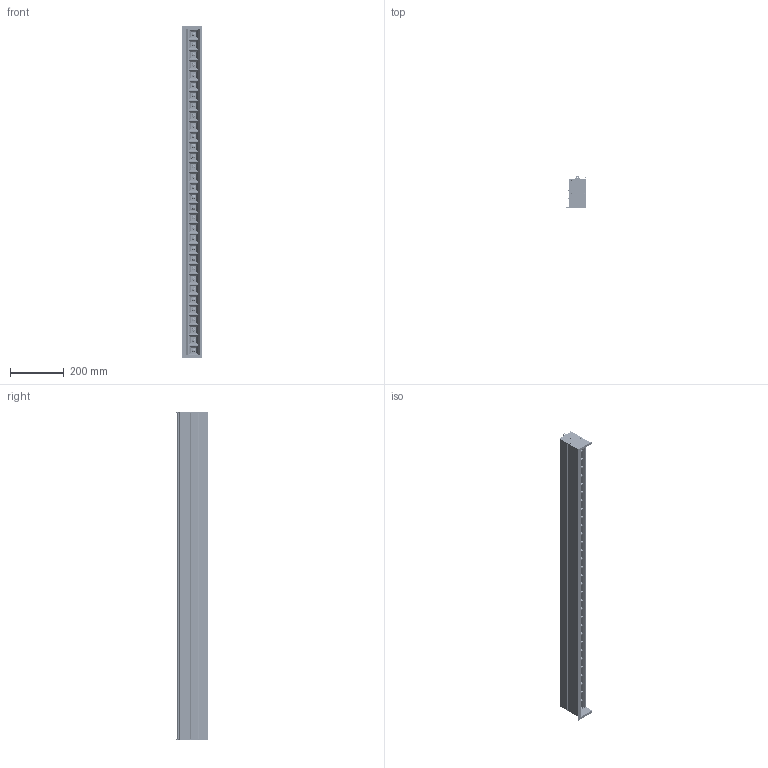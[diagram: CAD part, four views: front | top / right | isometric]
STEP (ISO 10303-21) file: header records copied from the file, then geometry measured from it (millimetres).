
FILE_DESCRIPTION (( 'STEP AP214' ), '1' );
FILE_NAME ('60PTLP-RBT-RLB.STEP', '2023-02-14T20:58:18', ( '' ), ( '' ), 'SwSTEP 2.0', 'SolidWorks 2021', '' );
FILE_SCHEMA (( 'AUTOMOTIVE_DESIGN' ));
Length unit declared in the file: inch
Products named in the file (24): ProTools Linear CCEA bezel end cap C; 330-10009-400; 710-10424-300_710-10424-300-4''; Mirror410-20037; 60PTLP-RBT-RLB; 310-10153-101_90087A146; 710-10414-300_IC90-L; 310-10040-101_310-10040-101; 730-20905-100; ProTools Linear Perimeter Housing Assemblies_Perimeter Bezel; 730-20904-100; 710-10422-303-SA_710-10422-303-4''; 730-10066; 410-20037; 720-10208-400-XX; 610-20809-930-152.4MM_Full length; 310-10159-101_92005A218; 310-10029-101_92005A112; ProTools Linear Perimeter GT_RLB 4''; 310-10020-101_310-10020-101; 730-20959-101; 760-10210-400; ProTools Perimeter bezel end cap B
Assembly tree (69 placements, depth 4):
  60PTLP-RBT-RLB
    ProTools Linear Perimeter Housing Assemblies_Perimeter Bezel
      710-10414-300_IC90-L
      730-20904-100
        ProTools Linear CCEA bezel end cap C
        ProTools Perimeter bezel end cap B
      730-20905-100
        ProTools Linear CCEA bezel end cap C
        ProTools Perimeter bezel end cap B
      310-10040-101_310-10040-101  x6
    ProTools Linear Perimeter GT_RLB 4''
      710-10422-303-SA_710-10422-303-4''
      710-10424-300_710-10424-300-4''
      310-10029-101_92005A112  x5
      610-20809-930-152.4MM_Full length  x2
      760-10210-400  x8
      310-10159-101_92005A218
      330-10009-400
      310-10020-101_310-10020-101  x8
      730-20959-101  x2
      730-10066  x2
      410-20037
        410-20037
        Mirror410-20037
      310-10153-101_90087A146  x16
      720-10208-400-XX  x4
Bounding box: 74 x 120.95 x 1240.79 mm (x, y, z)
Volume: 1787868.8 mm3; surface area: 1869715.6 mm2
Topology: 64 solids, 64 shells, 13642 faces, 35297 edges, 22187 vertices
Faces by surface type: plane 5126, cylinder 4337, bspline 1730, torus 966, cone 943, sphere 540
Entity records: 111437 total; most frequent: CARTESIAN_POINT 35426, ORIENTED_EDGE 15994, DIRECTION 13916, EDGE_CURVE 7997, VERTEX_POINT 5145, LINE 4682, VECTOR 4682, AXIS2_PLACEMENT_3D 4617
